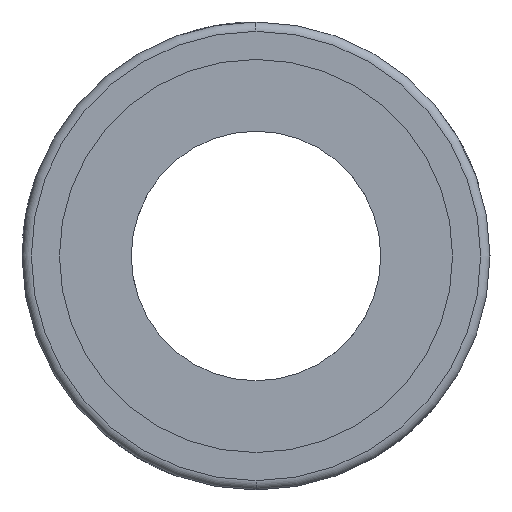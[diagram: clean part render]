
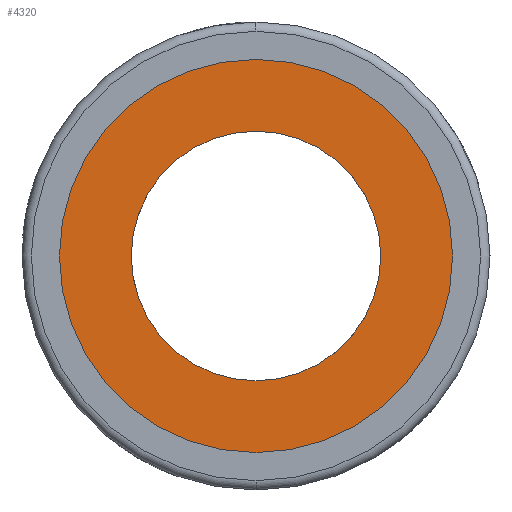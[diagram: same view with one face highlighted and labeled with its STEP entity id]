
A CAD part, left-side view. The second image highlights one B-rep face of the part: STEP entity #4320.
In plain terms, the highlighted planar face has unit normal (-1, 0, 0).
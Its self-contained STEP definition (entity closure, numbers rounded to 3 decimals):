
#1630 = EDGE_CURVE('',#1631,#1633,#1635,.T.);
#1631 = VERTEX_POINT('',#1632);
#1632 = CARTESIAN_POINT('',(-11.76,0.,-6.3));
#1633 = VERTEX_POINT('',#1634);
#1634 = CARTESIAN_POINT('',(-11.76,0.,6.3));
#1635 = SURFACE_CURVE('',#1636,(#1641,#1653),.PCURVE_S1.);
#1636 = CIRCLE('',#1637,6.3);
#1637 = AXIS2_PLACEMENT_3D('',#1638,#1639,#1640);
#1638 = CARTESIAN_POINT('',(-11.76,0.,0.));
#1639 = DIRECTION('',(1.,0.,0.));
#1640 = DIRECTION('',(0.,0.,1.));
#1641 = PCURVE('',#1642,#1647);
#1642 = CYLINDRICAL_SURFACE('',#1643,6.3);
#1643 = AXIS2_PLACEMENT_3D('',#1644,#1645,#1646);
#1644 = CARTESIAN_POINT('',(-11.52,0.,0.));
#1645 = DIRECTION('',(-1.,0.,0.));
#1646 = DIRECTION('',(0.,0.,1.));
#1647 = DEFINITIONAL_REPRESENTATION('',(#1648),#1652);
#1648 = LINE('',#1649,#1650);
#1649 = CARTESIAN_POINT('',(6.283,0.24));
#1650 = VECTOR('',#1651,1.);
#1651 = DIRECTION('',(-1.,0.));
#1652 = ( GEOMETRIC_REPRESENTATION_CONTEXT(2) 
PARAMETRIC_REPRESENTATION_CONTEXT() REPRESENTATION_CONTEXT('2D SPACE',''
  ) );
#1653 = PCURVE('',#1654,#1659);
#1654 = PLANE('',#1655);
#1655 = AXIS2_PLACEMENT_3D('',#1656,#1657,#1658);
#1656 = CARTESIAN_POINT('',(-11.76,0.,0.));
#1657 = DIRECTION('',(-1.,0.,0.));
#1658 = DIRECTION('',(0.,0.,1.));
#1659 = DEFINITIONAL_REPRESENTATION('',(#1660),#1668);
#1660 = ( BOUNDED_CURVE() B_SPLINE_CURVE(2,(#1661,#1662,#1663,#1664,
#1665,#1666,#1667),.UNSPECIFIED.,.T.,.F.) B_SPLINE_CURVE_WITH_KNOTS((1,2
    ,2,2,2,1),(-2.094,0.,2.094,4.189,
6.283,8.378),.UNSPECIFIED.) CURVE() 
GEOMETRIC_REPRESENTATION_ITEM() RATIONAL_B_SPLINE_CURVE((1.,0.5,1.,0.5,
1.,0.5,1.)) REPRESENTATION_ITEM('') );
#1661 = CARTESIAN_POINT('',(6.3,0.));
#1662 = CARTESIAN_POINT('',(6.3,-10.912));
#1663 = CARTESIAN_POINT('',(-3.15,-5.456));
#1664 = CARTESIAN_POINT('',(-12.6,0.));
#1665 = CARTESIAN_POINT('',(-3.15,5.456));
#1666 = CARTESIAN_POINT('',(6.3,10.912));
#1667 = CARTESIAN_POINT('',(6.3,0.));
#1668 = ( GEOMETRIC_REPRESENTATION_CONTEXT(2) 
PARAMETRIC_REPRESENTATION_CONTEXT() REPRESENTATION_CONTEXT('2D SPACE',''
  ) );
#1686 = CYLINDRICAL_SURFACE('',#1687,6.3);
#1687 = AXIS2_PLACEMENT_3D('',#1688,#1689,#1690);
#1688 = CARTESIAN_POINT('',(-11.52,0.,0.));
#1689 = DIRECTION('',(-1.,0.,0.));
#1690 = DIRECTION('',(0.,0.,1.));
#1797 = CYLINDRICAL_SURFACE('',#1798,4.);
#1798 = AXIS2_PLACEMENT_3D('',#1799,#1800,#1801);
#1799 = CARTESIAN_POINT('',(0.,0.,0.));
#1800 = DIRECTION('',(1.,0.,0.));
#1801 = DIRECTION('',(0.,0.,-1.));
#2437 = EDGE_CURVE('',#2438,#2440,#2442,.T.);
#2438 = VERTEX_POINT('',#2439);
#2439 = CARTESIAN_POINT('',(-11.76,0.,-4.));
#2440 = VERTEX_POINT('',#2441);
#2441 = CARTESIAN_POINT('',(-11.76,0.,4.));
#2442 = SURFACE_CURVE('',#2443,(#2448,#2455),.PCURVE_S1.);
#2443 = CIRCLE('',#2444,4.);
#2444 = AXIS2_PLACEMENT_3D('',#2445,#2446,#2447);
#2445 = CARTESIAN_POINT('',(-11.76,0.,0.));
#2446 = DIRECTION('',(1.,-0.,0.));
#2447 = DIRECTION('',(0.,0.,-1.));
#2448 = PCURVE('',#1797,#2449);
#2449 = DEFINITIONAL_REPRESENTATION('',(#2450),#2454);
#2450 = LINE('',#2451,#2452);
#2451 = CARTESIAN_POINT('',(0.,-11.76));
#2452 = VECTOR('',#2453,1.);
#2453 = DIRECTION('',(1.,0.));
#2454 = ( GEOMETRIC_REPRESENTATION_CONTEXT(2) 
PARAMETRIC_REPRESENTATION_CONTEXT() REPRESENTATION_CONTEXT('2D SPACE',''
  ) );
#2455 = PCURVE('',#1654,#2456);
#2456 = DEFINITIONAL_REPRESENTATION('',(#2457),#2465);
#2457 = ( BOUNDED_CURVE() B_SPLINE_CURVE(2,(#2458,#2459,#2460,#2461,
#2462,#2463,#2464),.UNSPECIFIED.,.T.,.F.) B_SPLINE_CURVE_WITH_KNOTS((1,2
    ,2,2,2,1),(-2.094,0.,2.094,4.189,
6.283,8.378),.UNSPECIFIED.) CURVE() 
GEOMETRIC_REPRESENTATION_ITEM() RATIONAL_B_SPLINE_CURVE((1.,0.5,1.,0.5,
1.,0.5,1.)) REPRESENTATION_ITEM('') );
#2458 = CARTESIAN_POINT('',(-4.,0.));
#2459 = CARTESIAN_POINT('',(-4.,6.928));
#2460 = CARTESIAN_POINT('',(2.,3.464));
#2461 = CARTESIAN_POINT('',(8.,0.));
#2462 = CARTESIAN_POINT('',(2.,-3.464));
#2463 = CARTESIAN_POINT('',(-4.,-6.928));
#2464 = CARTESIAN_POINT('',(-4.,0.));
#2465 = ( GEOMETRIC_REPRESENTATION_CONTEXT(2) 
PARAMETRIC_REPRESENTATION_CONTEXT() REPRESENTATION_CONTEXT('2D SPACE',''
  ) );
#2483 = CYLINDRICAL_SURFACE('',#2484,4.);
#2484 = AXIS2_PLACEMENT_3D('',#2485,#2486,#2487);
#2485 = CARTESIAN_POINT('',(0.,0.,0.));
#2486 = DIRECTION('',(1.,0.,0.));
#2487 = DIRECTION('',(0.,0.,-1.));
#2902 = EDGE_CURVE('',#2440,#2438,#2903,.T.);
#2903 = SURFACE_CURVE('',#2904,(#2909,#2916),.PCURVE_S1.);
#2904 = CIRCLE('',#2905,4.);
#2905 = AXIS2_PLACEMENT_3D('',#2906,#2907,#2908);
#2906 = CARTESIAN_POINT('',(-11.76,0.,0.));
#2907 = DIRECTION('',(1.,-0.,0.));
#2908 = DIRECTION('',(0.,0.,-1.));
#2909 = PCURVE('',#2483,#2910);
#2910 = DEFINITIONAL_REPRESENTATION('',(#2911),#2915);
#2911 = LINE('',#2912,#2913);
#2912 = CARTESIAN_POINT('',(0.,-11.76));
#2913 = VECTOR('',#2914,1.);
#2914 = DIRECTION('',(1.,0.));
#2915 = ( GEOMETRIC_REPRESENTATION_CONTEXT(2) 
PARAMETRIC_REPRESENTATION_CONTEXT() REPRESENTATION_CONTEXT('2D SPACE',''
  ) );
#2916 = PCURVE('',#1654,#2917);
#2917 = DEFINITIONAL_REPRESENTATION('',(#2918),#2926);
#2918 = ( BOUNDED_CURVE() B_SPLINE_CURVE(2,(#2919,#2920,#2921,#2922,
#2923,#2924,#2925),.UNSPECIFIED.,.T.,.F.) B_SPLINE_CURVE_WITH_KNOTS((1,2
    ,2,2,2,1),(-2.094,0.,2.094,4.189,
6.283,8.378),.UNSPECIFIED.) CURVE() 
GEOMETRIC_REPRESENTATION_ITEM() RATIONAL_B_SPLINE_CURVE((1.,0.5,1.,0.5,
1.,0.5,1.)) REPRESENTATION_ITEM('') );
#2919 = CARTESIAN_POINT('',(-4.,0.));
#2920 = CARTESIAN_POINT('',(-4.,6.928));
#2921 = CARTESIAN_POINT('',(2.,3.464));
#2922 = CARTESIAN_POINT('',(8.,0.));
#2923 = CARTESIAN_POINT('',(2.,-3.464));
#2924 = CARTESIAN_POINT('',(-4.,-6.928));
#2925 = CARTESIAN_POINT('',(-4.,0.));
#2926 = ( GEOMETRIC_REPRESENTATION_CONTEXT(2) 
PARAMETRIC_REPRESENTATION_CONTEXT() REPRESENTATION_CONTEXT('2D SPACE',''
  ) );
#4320 = ADVANCED_FACE('',(#4321,#4325),#1654,.T.);
#4321 = FACE_BOUND('',#4322,.T.);
#4322 = EDGE_LOOP('',(#4323,#4324));
#4323 = ORIENTED_EDGE('',*,*,#2902,.T.);
#4324 = ORIENTED_EDGE('',*,*,#2437,.T.);
#4325 = FACE_BOUND('',#4326,.T.);
#4326 = EDGE_LOOP('',(#4327,#4353));
#4327 = ORIENTED_EDGE('',*,*,#4328,.F.);
#4328 = EDGE_CURVE('',#1633,#1631,#4329,.T.);
#4329 = SURFACE_CURVE('',#4330,(#4335,#4346),.PCURVE_S1.);
#4330 = CIRCLE('',#4331,6.3);
#4331 = AXIS2_PLACEMENT_3D('',#4332,#4333,#4334);
#4332 = CARTESIAN_POINT('',(-11.76,0.,0.));
#4333 = DIRECTION('',(1.,0.,0.));
#4334 = DIRECTION('',(0.,0.,1.));
#4335 = PCURVE('',#1654,#4336);
#4336 = DEFINITIONAL_REPRESENTATION('',(#4337),#4345);
#4337 = ( BOUNDED_CURVE() B_SPLINE_CURVE(2,(#4338,#4339,#4340,#4341,
#4342,#4343,#4344),.UNSPECIFIED.,.T.,.F.) B_SPLINE_CURVE_WITH_KNOTS((1,2
    ,2,2,2,1),(-2.094,0.,2.094,4.189,
6.283,8.378),.UNSPECIFIED.) CURVE() 
GEOMETRIC_REPRESENTATION_ITEM() RATIONAL_B_SPLINE_CURVE((1.,0.5,1.,0.5,
1.,0.5,1.)) REPRESENTATION_ITEM('') );
#4338 = CARTESIAN_POINT('',(6.3,0.));
#4339 = CARTESIAN_POINT('',(6.3,-10.912));
#4340 = CARTESIAN_POINT('',(-3.15,-5.456));
#4341 = CARTESIAN_POINT('',(-12.6,0.));
#4342 = CARTESIAN_POINT('',(-3.15,5.456));
#4343 = CARTESIAN_POINT('',(6.3,10.912));
#4344 = CARTESIAN_POINT('',(6.3,0.));
#4345 = ( GEOMETRIC_REPRESENTATION_CONTEXT(2) 
PARAMETRIC_REPRESENTATION_CONTEXT() REPRESENTATION_CONTEXT('2D SPACE',''
  ) );
#4346 = PCURVE('',#1686,#4347);
#4347 = DEFINITIONAL_REPRESENTATION('',(#4348),#4352);
#4348 = LINE('',#4349,#4350);
#4349 = CARTESIAN_POINT('',(6.283,0.24));
#4350 = VECTOR('',#4351,1.);
#4351 = DIRECTION('',(-1.,0.));
#4352 = ( GEOMETRIC_REPRESENTATION_CONTEXT(2) 
PARAMETRIC_REPRESENTATION_CONTEXT() REPRESENTATION_CONTEXT('2D SPACE',''
  ) );
#4353 = ORIENTED_EDGE('',*,*,#1630,.F.);
